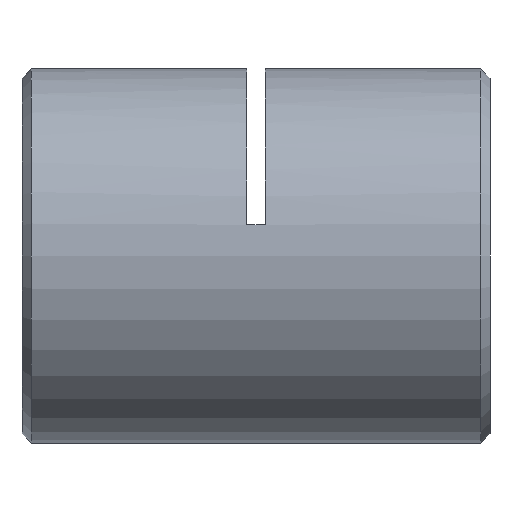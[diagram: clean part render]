
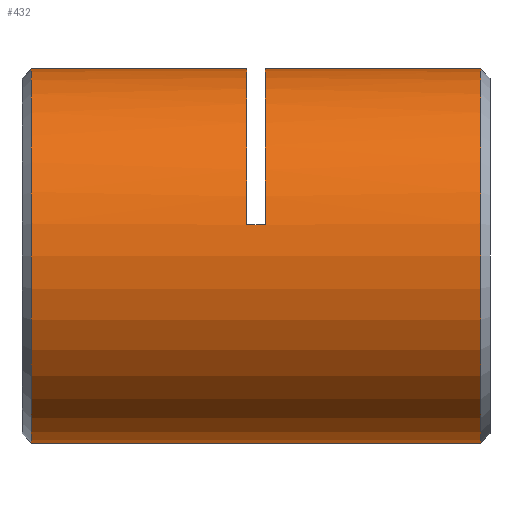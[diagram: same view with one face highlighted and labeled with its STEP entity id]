
A CAD part, left-side view. The second image highlights one B-rep face of the part: STEP entity #432.
In plain terms, the highlighted cylindrical face has radius 10 mm (diameter 20 mm), a partial arc.
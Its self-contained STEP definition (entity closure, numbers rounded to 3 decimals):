
#43 = DIRECTION ( 'NONE',  ( 0., 0., -1. ) ) ;
#54 = EDGE_CURVE ( 'NONE', #2094, #1642, #2550, .T. ) ;
#90 = ORIENTED_EDGE ( 'NONE', *, *, #3335, .T. ) ;
#183 = CARTESIAN_POINT ( 'NONE',  ( 0., 0., 0. ) ) ;
#198 = DIRECTION ( 'NONE',  ( 0., 1., 0. ) ) ;
#304 = VERTEX_POINT ( 'NONE', #1021 ) ;
#350 = EDGE_CURVE ( 'NONE', #820, #2798, #1489, .T. ) ;
#354 = CARTESIAN_POINT ( 'NONE',  ( 0., 0.75, -10. ) ) ;
#388 = DIRECTION ( 'NONE',  ( 0., 1., 0. ) ) ;
#432 = ADVANCED_FACE ( 'NONE', ( #1521 ), #3171, .T. ) ;
#456 = CARTESIAN_POINT ( 'NONE',  ( 0., 0.75, 0. ) ) ;
#474 = CARTESIAN_POINT ( 'NONE',  ( 0., 0., -10. ) ) ;
#511 = EDGE_CURVE ( 'NONE', #3107, #1642, #781, .T. ) ;
#541 = CARTESIAN_POINT ( 'NONE',  ( 0., 0.75, 10. ) ) ;
#563 = ORIENTED_EDGE ( 'NONE', *, *, #1788, .T. ) ;
#602 = ORIENTED_EDGE ( 'NONE', *, *, #2074, .F. ) ;
#756 = AXIS2_PLACEMENT_3D ( 'NONE', #183, #198, #1105 ) ;
#769 = ORIENTED_EDGE ( 'NONE', *, *, #511, .F. ) ;
#781 = LINE ( 'NONE', #474, #3497 ) ;
#820 = VERTEX_POINT ( 'NONE', #541 ) ;
#924 = LINE ( 'NONE', #1668, #3175 ) ;
#952 = CARTESIAN_POINT ( 'NONE',  ( 0., 12.25, 0. ) ) ;
#1004 = DIRECTION ( 'NONE',  ( 0., 0., 1. ) ) ;
#1021 = CARTESIAN_POINT ( 'NONE',  ( 0., 13.25, 10. ) ) ;
#1064 = DIRECTION ( 'NONE',  ( 0., 0., 1. ) ) ;
#1081 = DIRECTION ( 'NONE',  ( 0., 1., 0. ) ) ;
#1105 = DIRECTION ( 'NONE',  ( 0., 0., 1. ) ) ;
#1121 = VECTOR ( 'NONE', #1081, 1000. ) ;
#1281 = AXIS2_PLACEMENT_3D ( 'NONE', #2388, #2718, #43 ) ;
#1322 = ORIENTED_EDGE ( 'NONE', *, *, #3431, .T. ) ;
#1342 = EDGE_LOOP ( 'NONE', ( #769, #90, #2253, #602, #563, #2794, #1322, #3439 ) ) ;
#1489 = LINE ( 'NONE', #3410, #1121 ) ;
#1521 = FACE_OUTER_BOUND ( 'NONE', #1342, .T. ) ;
#1551 = DIRECTION ( 'NONE',  ( 0., 1., 0. ) ) ;
#1590 = CIRCLE ( 'NONE', #3631, 10. ) ;
#1642 = VERTEX_POINT ( 'NONE', #1862 ) ;
#1668 = CARTESIAN_POINT ( 'NONE',  ( 0., 0., 10. ) ) ;
#1687 = CIRCLE ( 'NONE', #2856, 10. ) ;
#1788 = EDGE_CURVE ( 'NONE', #2324, #3100, #1989, .T. ) ;
#1862 = CARTESIAN_POINT ( 'NONE',  ( 0., 24.75, -10. ) ) ;
#1878 = CARTESIAN_POINT ( 'NONE',  ( -9.86, 12.25, 1.667 ) ) ;
#1989 = LINE ( 'NONE', #2048, #2815 ) ;
#2048 = CARTESIAN_POINT ( 'NONE',  ( -9.86, 12.75, 1.667 ) ) ;
#2058 = EDGE_CURVE ( 'NONE', #3100, #304, #3145, .T. ) ;
#2074 = EDGE_CURVE ( 'NONE', #2324, #2798, #1590, .T. ) ;
#2094 = VERTEX_POINT ( 'NONE', #2157 ) ;
#2157 = CARTESIAN_POINT ( 'NONE',  ( 0., 24.75, 10. ) ) ;
#2253 = ORIENTED_EDGE ( 'NONE', *, *, #350, .T. ) ;
#2324 = VERTEX_POINT ( 'NONE', #1878 ) ;
#2388 = CARTESIAN_POINT ( 'NONE',  ( 0., 24.75, 0. ) ) ;
#2522 = DIRECTION ( 'NONE',  ( 0., 1., 0. ) ) ;
#2550 = CIRCLE ( 'NONE', #1281, 10. ) ;
#2718 = DIRECTION ( 'NONE',  ( 0., -1., 0. ) ) ;
#2725 = CARTESIAN_POINT ( 'NONE',  ( 0., 13.25, 0. ) ) ;
#2794 = ORIENTED_EDGE ( 'NONE', *, *, #2058, .T. ) ;
#2798 = VERTEX_POINT ( 'NONE', #3596 ) ;
#2815 = VECTOR ( 'NONE', #2918, 1000. ) ;
#2856 = AXIS2_PLACEMENT_3D ( 'NONE', #456, #2522, #1064 ) ;
#2918 = DIRECTION ( 'NONE',  ( 0., 1., 0. ) ) ;
#3053 = DIRECTION ( 'NONE',  ( 0., 0., 1. ) ) ;
#3055 = CARTESIAN_POINT ( 'NONE',  ( -9.86, 13.25, 1.667 ) ) ;
#3100 = VERTEX_POINT ( 'NONE', #3055 ) ;
#3107 = VERTEX_POINT ( 'NONE', #354 ) ;
#3145 = CIRCLE ( 'NONE', #3240, 10. ) ;
#3171 = CYLINDRICAL_SURFACE ( 'NONE', #756, 10. ) ;
#3175 = VECTOR ( 'NONE', #3708, 1000. ) ;
#3240 = AXIS2_PLACEMENT_3D ( 'NONE', #2725, #1551, #3053 ) ;
#3335 = EDGE_CURVE ( 'NONE', #3107, #820, #1687, .T. ) ;
#3410 = CARTESIAN_POINT ( 'NONE',  ( 0., 0., 10. ) ) ;
#3431 = EDGE_CURVE ( 'NONE', #304, #2094, #924, .T. ) ;
#3439 = ORIENTED_EDGE ( 'NONE', *, *, #54, .T. ) ;
#3497 = VECTOR ( 'NONE', #3745, 1000. ) ;
#3596 = CARTESIAN_POINT ( 'NONE',  ( 0., 12.25, 10. ) ) ;
#3631 = AXIS2_PLACEMENT_3D ( 'NONE', #952, #388, #1004 ) ;
#3708 = DIRECTION ( 'NONE',  ( 0., 1., 0. ) ) ;
#3745 = DIRECTION ( 'NONE',  ( 0., 1., 0. ) ) ;
